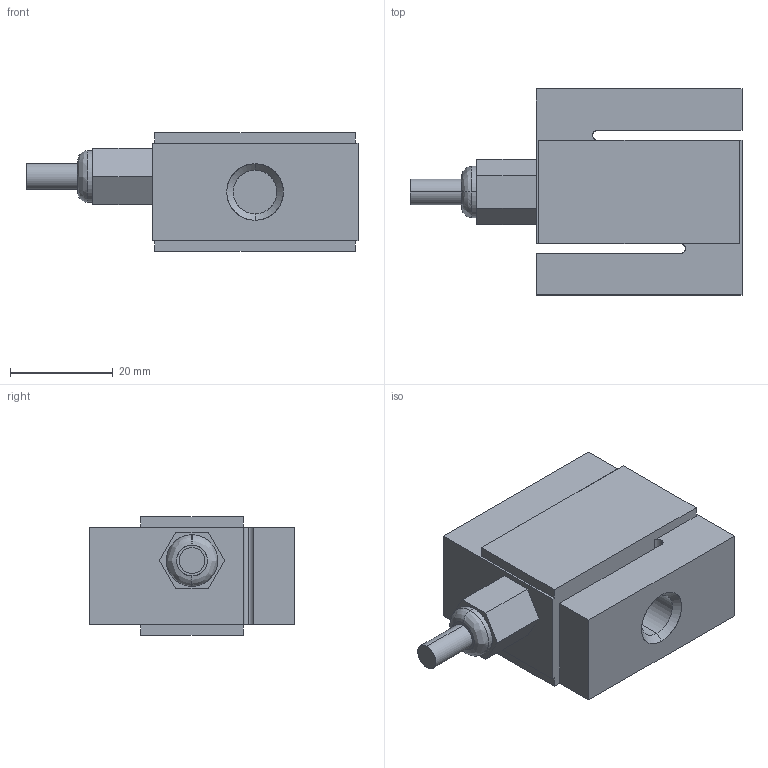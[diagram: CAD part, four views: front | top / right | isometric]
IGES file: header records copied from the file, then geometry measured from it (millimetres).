
Start section: SolidWorks IGES file using analytic representation for surfaces
Global section: file name: O:\16-Entwicklung\07_Serienprodukte\03_Kraftsensoren\0231_KM1506\01_Mechanik & Gehäuse\01_Solid Works\01_Outline 3D files\3D_KM1506 neu.IGS; native system: SolidWorks 2017; preprocessor: SolidWorks 2017; author: ErichR; date: 170925.162328; units: millimetre
Bounding box: 64.5 x 40 x 23 mm (x, y, z)
Surface area: 9479.1 mm2 (no closed solid volume)
Topology: 0 solids, 0 shells, 46 faces, 532 edges, 532 vertices
Faces by surface type: bspline 31, revolution 15
